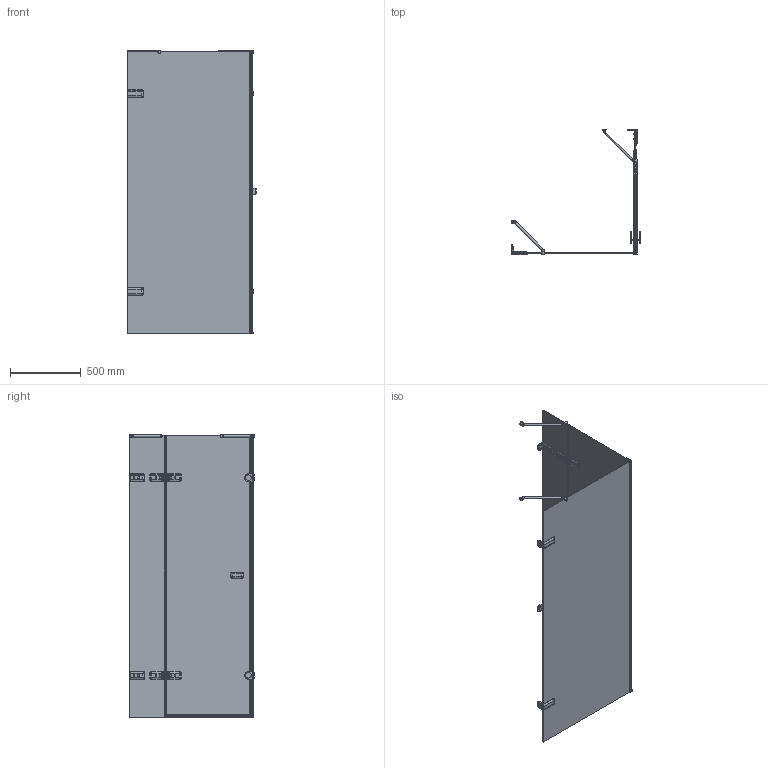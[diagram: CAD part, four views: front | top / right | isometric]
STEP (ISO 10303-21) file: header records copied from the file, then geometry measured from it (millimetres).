
FILE_DESCRIPTION(/* description */ (''),/* implementation_level */ '2;1');
FILE_NAME(/* name */ 'E:\Работа\Сергей\Душевые кабинки\! Работа\TREND SQUARE GK-863TWO\TREND SQUARE GK-863TWO правая модель\TREND SQUARE GK-863TWO ПРАВАЯ-3D.stp',/* time_stamp */ '2017-08-18T20:41:43+03:00',/* author */ ('PC'),/* organization */ (''),/* preprocessor_version */ 'ST-DEVELOPER v15.2',/* originating_system */ 'Autodesk Inventor 2014',/* authorisation */ '');
FILE_SCHEMA (('AUTOMOTIVE_DESIGN { 1 0 10303 214 3 1 1 }'));
Products named in the file (1): TREND SQUARE GK-863TWO ПРАВАЯ-
3D
Bounding box: 913.5 x 892.5 x 2009.49 mm (x, y, z)
Volume: 22172286.5 mm3; surface area: 7465289.5 mm2
Topology: 13 solids, 13 shells, 1569 faces, 4048 edges, 2497 vertices
Faces by surface type: plane 931, cylinder 368, bspline 174, torus 53, cone 24, sphere 19
Full cylindrical faces by diameter (mm): 6 x4, 9 x8, 13 x4, 15 x2, 20 x4, 26 x2, 40 x4
Entity records: 66822 total; most frequent: CARTESIAN_POINT 28261, ORIENTED_EDGE 7818, DIRECTION 7408, EDGE_CURVE 3909, AXIS2_PLACEMENT_3D 2490, VERTEX_POINT 2475, LINE 2428, VECTOR 2428
